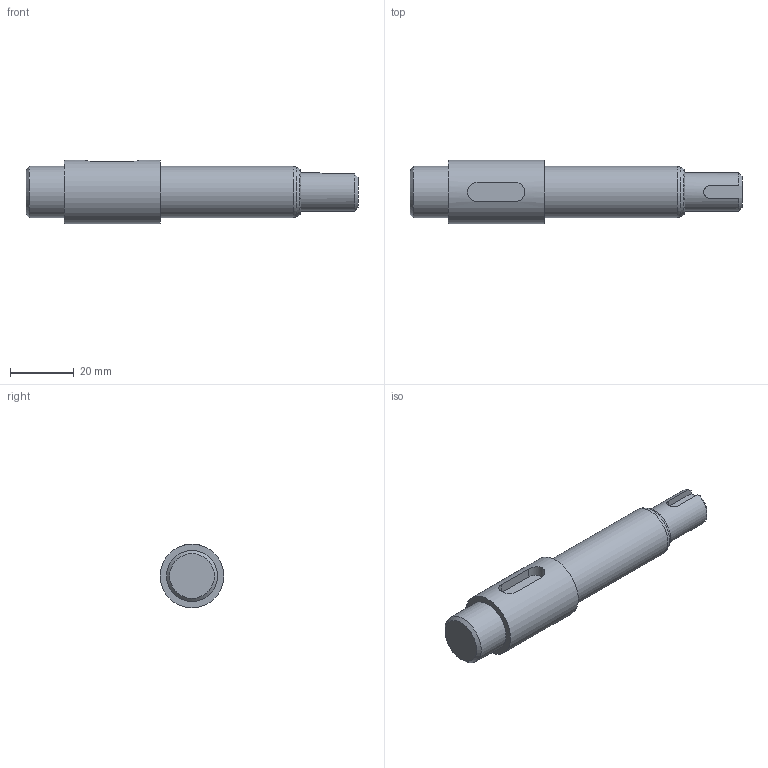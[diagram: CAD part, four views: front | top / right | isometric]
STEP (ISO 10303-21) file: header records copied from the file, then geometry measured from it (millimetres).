
FILE_DESCRIPTION(/* description */ (''),/* implementation_level */ '2;1');
FILE_NAME(/* name */ 'C:\Users\net\Desktop\390409E1005\1390409E1005-메인축.stp',/* time_stamp */ '2019-04-13T11:45:28+09:00',/* author */ ('net'),/* organization */ (''),/* preprocessor_version */ 'ST-DEVELOPER v15.2',/* originating_system */ 'Autodesk Inventor 2014',/* authorisation */ '');
FILE_SCHEMA (('AUTOMOTIVE_DESIGN { 1 0 10303 214 3 1 1 }'));
Length unit declared in the file: millimetre
Products named in the file (1): 부품1390409E1005
Bounding box: 104 x 20 x 20 mm (x, y, z)
Volume: 22189.2 mm3; surface area: 6090.7 mm2
Topology: 1 solids, 1 shells, 23 faces, 51 edges, 34 vertices
Faces by surface type: plane 11, cylinder 7, cone 3, torus 2
Full cylindrical faces by diameter (mm): 12 x1, 16 x2, 20 x1
Entity records: 644 total; most frequent: CARTESIAN_POINT 155, DIRECTION 97, ORIENTED_EDGE 82, EDGE_CURVE 41, AXIS2_PLACEMENT_3D 40, EDGE_LOOP 35, VERTEX_POINT 32, ADVANCED_FACE 23
